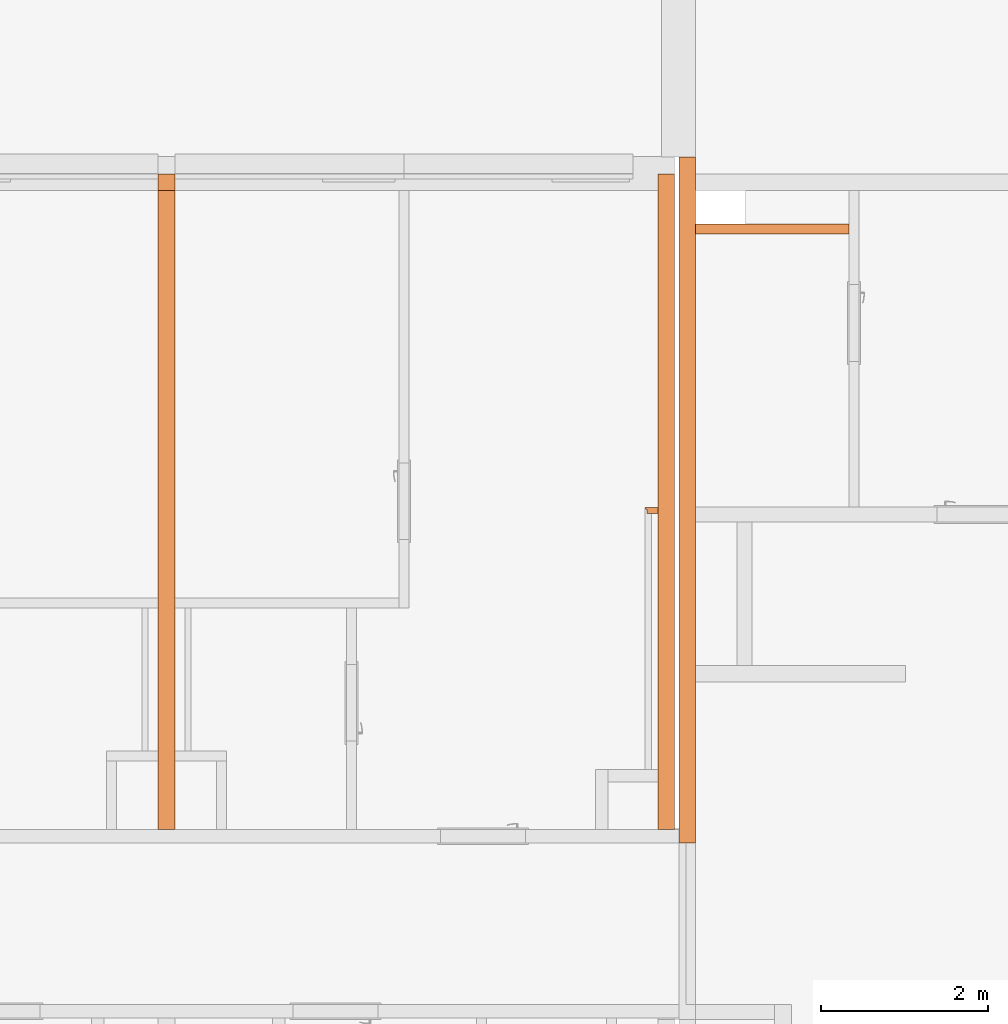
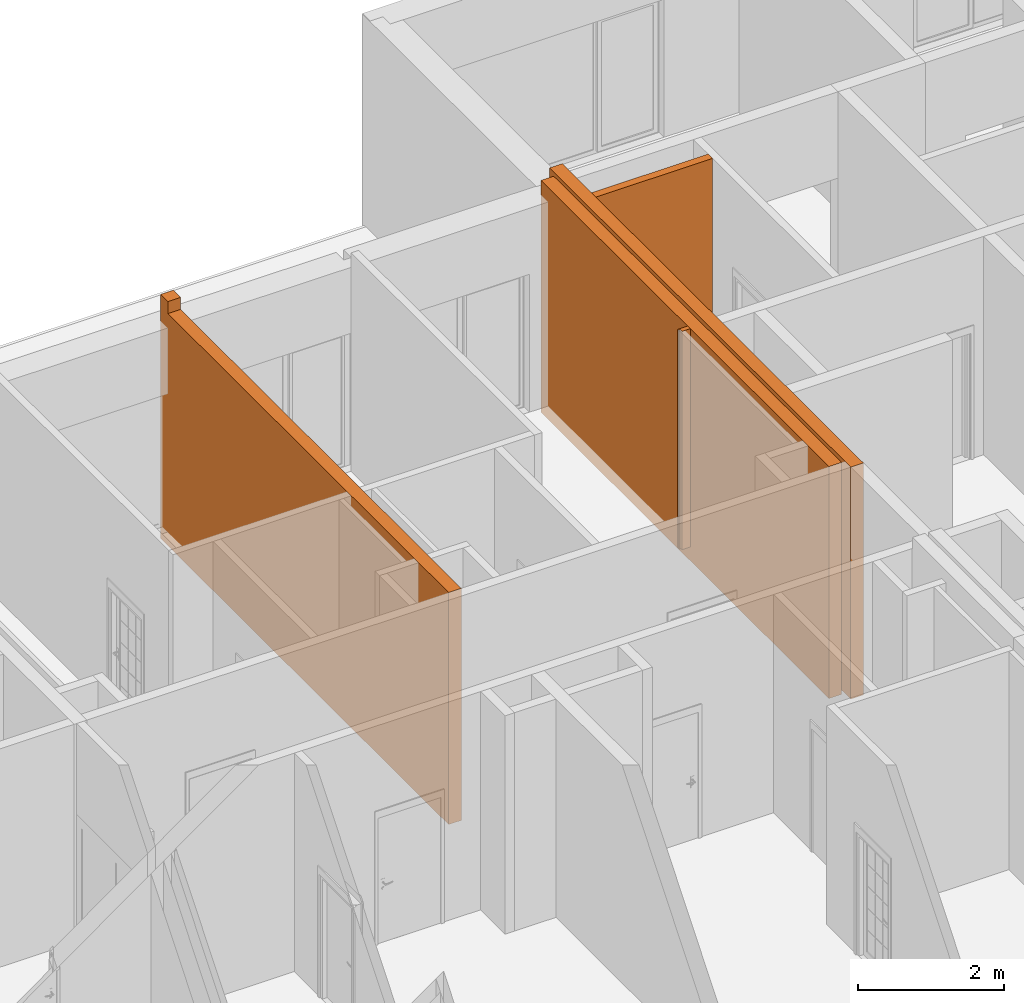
# One storey, part 43 of 46: 5 proxies.
"""IFC2X3 building model written with IfcOpenShell, lengths in millimetres."""

from ifc_helpers import new_model, entity, si_unit, converted_unit, derived_unit, money_unit, direction, frame, origin_with_axes, place, context, subcontext, project, spatial, faceted_brep, material, material_list, type_object, element, save


model = new_model("IFC2X3")

# Units and contexts
model_context = context("Model", 3, precision=0.01, world=origin_with_axes(), true_north=direction((0.34421633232, 0.938890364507)))
body_context = subcontext(model_context, "Body", "Model", "MODEL_VIEW")
ifc_project = project(units=[si_unit("LENGTHUNIT", "METRE", prefix="MILLI"), si_unit("AREAUNIT", "SQUARE_METRE"), si_unit("VOLUMEUNIT", "CUBIC_METRE"), converted_unit("PLANEANGLEUNIT", "DEGREE", entity("IfcPlaneAngleMeasure", 0.0174532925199), si_unit("PLANEANGLEUNIT", "RADIAN"), dimensions=[0, 0, 0, 0, 0, 0, 0]), si_unit("SOLIDANGLEUNIT", "STERADIAN"), money_unit("USD"), converted_unit("TIMEUNIT", "Year", entity("IfcTimeMeasure", 31556926.0), si_unit("TIMEUNIT", "SECOND"), dimensions=[0, 0, 1, 0, 0, 0, 0]), si_unit("MASSUNIT", "GRAM", prefix="KILO"), si_unit("THERMODYNAMICTEMPERATUREUNIT", "DEGREE_CELSIUS"), si_unit("LUMINOUSINTENSITYUNIT", "LUMEN"), si_unit("ENERGYUNIT", "JOULE", prefix="MEGA"), derived_unit("THERMALCONDUCTANCEUNIT", [(si_unit("POWERUNIT", "WATT"), 1), (si_unit("LENGTHUNIT", "METRE"), -1), (si_unit("THERMODYNAMICTEMPERATUREUNIT", "KELVIN"), -1)]), derived_unit("SPECIFICHEATCAPACITYUNIT", [(si_unit("ENERGYUNIT", "JOULE"), 1), (si_unit("MASSUNIT", "GRAM", prefix="KILO"), -1), (si_unit("THERMODYNAMICTEMPERATUREUNIT", "KELVIN"), -1)]), derived_unit("MASSDENSITYUNIT", [(si_unit("MASSUNIT", "GRAM", prefix="KILO"), 1), (si_unit("VOLUMEUNIT", "CUBIC_METRE"), -1)])], contexts=[model_context])

# Site, building, storey
site_placement = place(None, origin_with_axes())
site = spatial("IfcSite", under=ifc_project, at=site_placement, Name="USTRONIE MORSKIE", CompositionType="ELEMENT")
building_placement = place(site_placement, origin_with_axes())
building = spatial("IfcBuilding", under=site, at=building_placement, Name="Budynek", CompositionType="ELEMENT")
storey_placement = place(building_placement, origin_with_axes())
storey = spatial("IfcBuildingStorey", under=building, at=storey_placement, Name="PARTER", CompositionType="ELEMENT", Elevation=0.0)

# Proxies
ifc_material_1 = material(Name="Bloczki silikatowe")
building_element_proxy_type_1 = type_object("IfcBuildingElementProxyType", Name="Bloczki silikatowe 120", PredefinedType="NOTDEFINED")
proxy_1_placement = place(storey_placement, frame((410567.940089, 744141.199036, -230.0), z_axis=(0.0, 0.0, 1.0), x_axis=(-1.0, 0.0, 0.0)))
element("IfcBuildingElementProxy", 1, at=proxy_1_placement, inside=storey, type_object=building_element_proxy_type_1, material=ifc_material_1, Name="SW-04", context=body_context, shape_type="Brep", body=[
    faceted_brep([(1900.01916964, 59.9999999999, 0.0), (1900.01916964, -59.9999999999, 0.0), (60.0, -59.9999999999, 0.0), (60.0, 59.9999999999, 0.0), (1900.01916964, 59.9999999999, 3870.0), (1900.01916964, -59.9999999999, 3870.0), (60.0, -59.9999999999, 3870.0), (60.0, 59.9999999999, 3870.0)], [[[0, 1, 2, 3]], [[1, 0, 4, 5]], [[1, 5, 6, 2]], [[7, 3, 2, 6]], [[4, 0, 3, 7]], [[5, 4, 7, 6]]]),
])
ifc_material_2 = material(Name="-Pustka powietrzna")
ifc_material_3 = material(Name="Płyta GK")
ifc_material_list = material_list([ifc_material_2, ifc_material_3, ifc_material_3])
building_element_proxy_type_2 = type_object("IfcBuildingElementProxyType", Name="330-SD GK 2-warstwy 75", PredefinedType="NOTDEFINED")
proxy_2_placement = place(storey_placement, frame((408317.920919, 740771.202288, -180.0), z_axis=(0.0, 0.0, 1.0), x_axis=(-1.0, 0.0, 0.0)))
element("IfcBuildingElementProxy", 2, at=proxy_2_placement, inside=storey, type_object=building_element_proxy_type_2, material=ifc_material_list, Name="Ściana-009", context=body_context, shape_type="Brep", body=[
    faceted_brep([(100.0, 50.0, 180.0), (100.0, 0.0, 180.0), (100.0, 0.0, 3820.0), (100.0, 50.0, 3820.0), (229.977879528, 0.0, 180.0), (229.977879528, 50.0, 180.0), (229.977879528, 0.0, 3820.0), (229.977879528, 50.0, 3820.0)], [[[0, 1, 2, 3]], [[4, 1, 0, 5]], [[1, 4, 6, 2]], [[6, 7, 3, 2]], [[5, 0, 3, 7]], [[4, 5, 7, 6]]]),
    faceted_brep([(100.0, 0.0, 165.0), (100.0, -12.5, 165.0), (100.0, -12.5, 3820.0), (100.0, 0.0, 3820.0), (242.477879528, -12.5, 165.0), (242.477879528, 0.0, 165.0), (242.477879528, -12.5, 3820.0), (242.477879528, 0.0, 3820.0)], [[[0, 1, 2, 3]], [[4, 1, 0, 5]], [[1, 4, 6, 2]], [[6, 7, 3, 2]], [[5, 0, 3, 7]], [[4, 5, 7, 6]]]),
    faceted_brep([(100.0, -12.5, 165.0), (100.0, -25.0, 165.0), (100.0, -25.0, 3820.0), (100.0, -12.5, 3820.0), (254.977879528, -25.0, 165.0), (254.977879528, -12.5, 165.0), (254.977879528, -25.0, 3820.0), (254.977879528, -12.5, 3820.0)], [[[0, 1, 2, 3]], [[4, 1, 0, 5]], [[1, 4, 6, 2]], [[6, 7, 3, 2]], [[5, 0, 3, 7]], [[4, 5, 7, 6]]]),
])
ifc_material_4 = material(Name="Beton konstrukcyjny B25")
building_element_proxy_type_3 = type_object("IfcBuildingElementProxyType", Name="Beton konstrukcyjny B25 200", PredefinedType="NOTDEFINED")
proxy_3_placement = place(storey_placement, frame((408317.920919, 744701.199036, -230.0), z_axis=(0.0, 0.0, 1.0), x_axis=(0.0, -1.0, 0.0)))
element("IfcBuildingElementProxy", 3, at=proxy_3_placement, inside=storey, type_object=building_element_proxy_type_3, material=ifc_material_4, Name="SW-01", context=body_context, shape_type="Brep", body=[
    faceted_brep([(-100.0, 100.0, 0.0), (-100.000285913, 100.0, 3870.0), (7770.0, 100.0, 3870.0), (7770.0, 100.0, 0.0), (-100.0, -100.0, 0.0), (-100.000285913, -100.0, 3870.0), (7770.0, -100.0, 3870.0), (7770.0, -100.0, 0.0)], [[[0, 1, 2, 3]], [[4, 5, 1, 0]], [[2, 1, 5, 6]], [[7, 3, 2, 6]], [[7, 4, 0, 3]], [[6, 5, 4, 7]]]),
])
proxy_4_placement = place(storey_placement, frame((402317.920919, 744701.199036, -230.0), z_axis=(0.0, 0.0, 1.0), x_axis=(0.0, -1.0, 0.0)))
element("IfcBuildingElementProxy", 4, at=proxy_4_placement, inside=storey, type_object=building_element_proxy_type_3, material=ifc_material_4, Name="SW-01", context=body_context, shape_type="Brep", body=[
    faceted_brep([(-100.000285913, -100.0, 4070.0), (99.9854668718, -100.0, 4070.0), (99.9859175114, 100.0, 4070.0), (-100.000285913, 100.0, 4070.0), (7770.0, -100.0, 3870.0), (99.9854668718, -100.0, 3870.0), (-100.0, -100.0, 0.0), (7770.0, -100.0, 0.0), (99.9859175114, 100.0, 3870.0), (7770.0, 100.0, 3870.0), (7770.0, 100.0, 0.0), (-100.0, 100.0, 0.0)], [[[0, 1, 2, 3]], [[4, 5, 1, 0, 6, 7]], [[5, 8, 2, 1]], [[2, 8, 9, 10, 11, 3]], [[11, 6, 0, 3]], [[4, 9, 8, 5]], [[6, 11, 10, 7]], [[10, 9, 4, 7]]]),
])
proxy_5_placement = place(storey_placement, frame((408567.920919, 745001.199036, -230.0), z_axis=(0.0, 0.0, 1.0), x_axis=(0.0, -1.0, 0.0)))
element("IfcBuildingElementProxy", 5, at=proxy_5_placement, inside=storey, type_object=building_element_proxy_type_3, material=ifc_material_4, Name="SW-01", context=body_context, shape_type="Brep", body=[
    faceted_brep([(0.0, 100.0, 0.0), (8230.0, 100.0, 0.0), (8230.0, -100.0, 0.0), (0.0, -100.0, 0.0), (0.0, 100.0, 3870.0), (8230.0, 100.0, 3870.0), (8230.0, -100.0, 3870.0), (0.0, -100.0, 3870.0)], [[[0, 1, 2, 3]], [[4, 5, 1, 0]], [[2, 1, 5, 6]], [[3, 2, 6, 7]], [[4, 0, 3, 7]], [[7, 6, 5, 4]]]),
])

save(model, "model.ifc")
